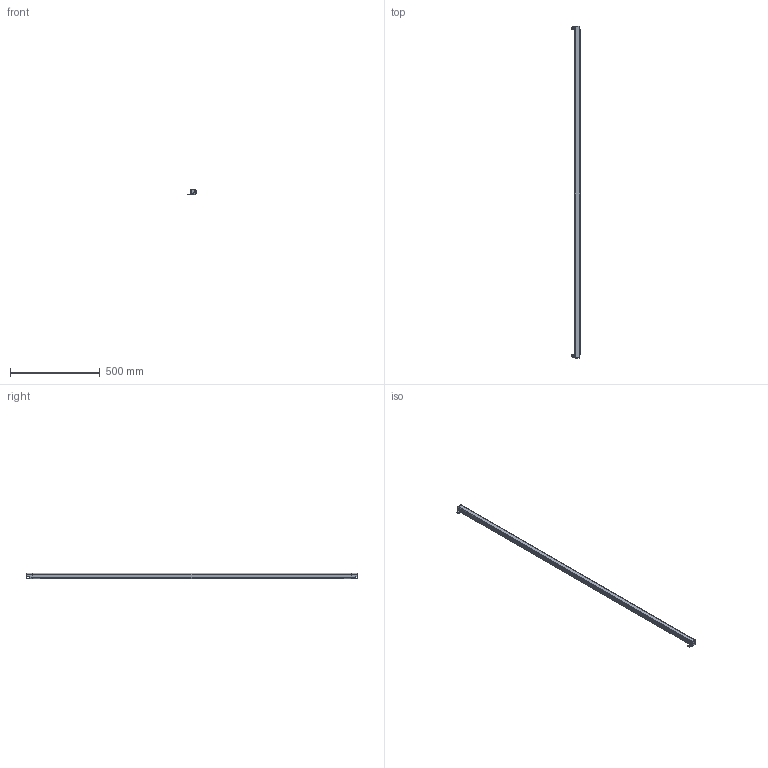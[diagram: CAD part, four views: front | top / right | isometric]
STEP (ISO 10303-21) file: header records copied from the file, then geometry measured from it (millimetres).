
FILE_DESCRIPTION(/* description */ (''),/* implementation_level */ '2;1');
FILE_NAME(/* name */ '4640(30X30).stp',/* time_stamp */ '2023-10-23T14:24:23+08:00',/* author */ (''),/* organization */ (''),/* preprocessor_version */ 'ST-DEVELOPER v16.7',/* originating_system */ 'SIEMENS PLM Software NX 12.0',/* authorisation */ '');
FILE_SCHEMA (('AP203_CONFIGURATION_CONTROLLED_3D_DESIGN_OF_MECHANICAL_PARTS_AND_ASSEMBLIES_MIM_LF { 1 0 10303 403 2 1 2}'));
Length unit declared in the file: millimetre
Products named in the file (1): 3840_30X30__stp
Bounding box: 44.89 x 1848.4 x 31.39 mm (x, y, z)
Volume: 572219.1 mm3; surface area: 605574.6 mm2
Topology: 6 solids, 6 shells, 441 faces, 1311 edges, 871 vertices
Faces by surface type: plane 256, cylinder 132, cone 32, bspline 14, extrusion 7
Full cylindrical faces by diameter (mm): 1.5 x2, 3.2 x8, 3.5 x8
Entity records: 15730 total; most frequent: CARTESIAN_POINT 3886, ORIENTED_EDGE 2528, DIRECTION 2314, EDGE_CURVE 1264, VECTOR 856, VERTEX_POINT 855, LINE 849, AXIS2_PLACEMENT_3D 729
